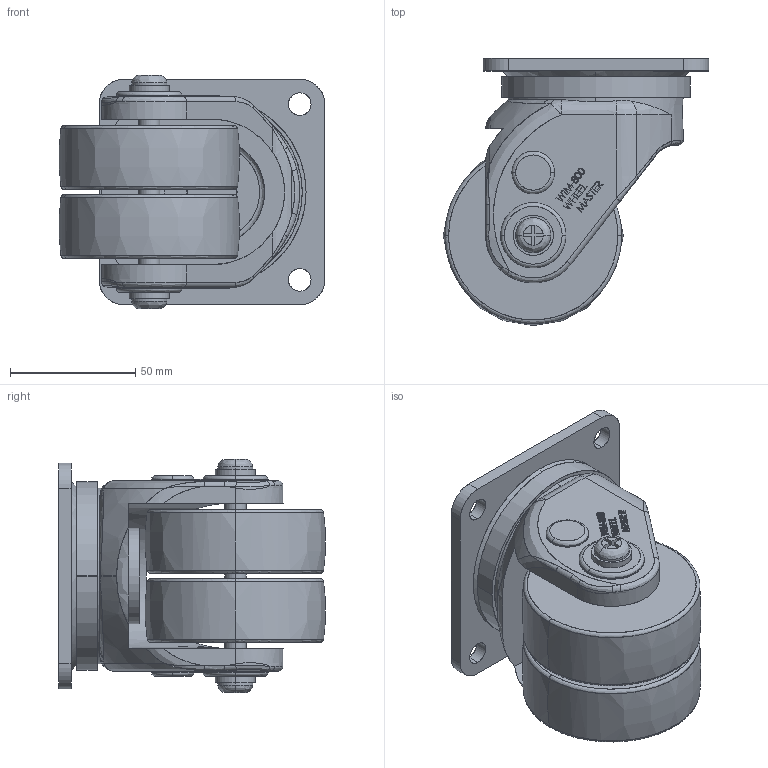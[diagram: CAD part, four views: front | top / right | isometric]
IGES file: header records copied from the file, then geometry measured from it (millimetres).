
Start section: SolidWorks IGES file using analytic representation for surfaces
Bounding box: 105.91 x 106.41 x 93 mm (x, y, z)
Surface area: 92304.8 mm2 (no closed solid volume)
Topology: 0 solids, 0 shells, 659 faces, 8793 edges, 8789 vertices
Faces by surface type: bspline 566, revolution 93
